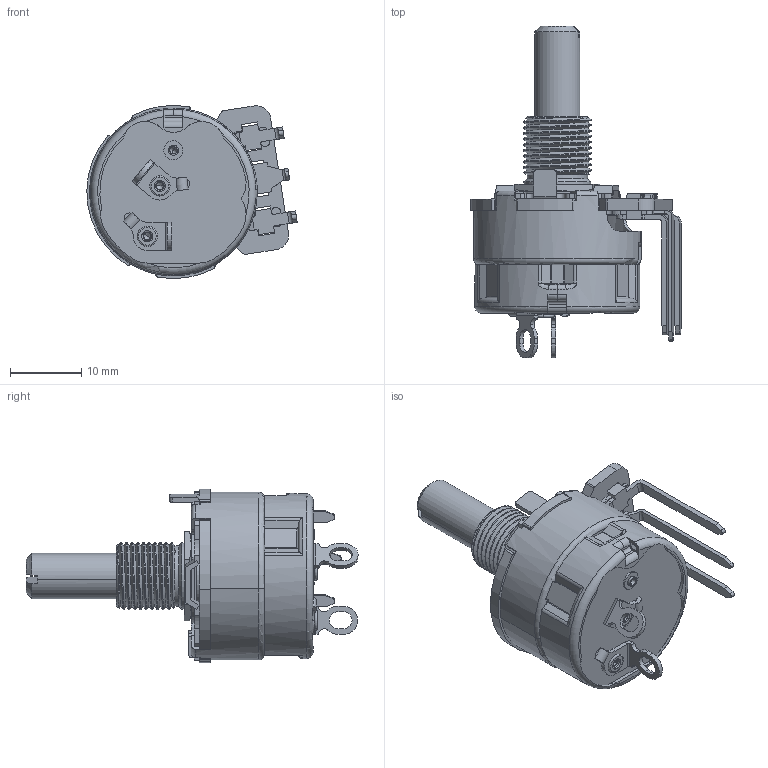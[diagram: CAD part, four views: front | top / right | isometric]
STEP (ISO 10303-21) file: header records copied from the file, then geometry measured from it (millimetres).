
FILE_DESCRIPTION (( 'STEP AP214' ), '1' );
FILE_NAME ('450V328S103A1C1.STEP', '2019-05-27T01:27:20', ( '' ), ( '' ), 'SwSTEP 2.0', 'SolidWorks 2019', '' );
FILE_SCHEMA (( 'AUTOMOTIVE_DESIGN' ));
Length unit declared in the file: millimetre
Products named in the file (18): 450S-ES-11194-28; 450D-5 for V450AEDF-1; Counter RivotGC_C_1G_RollOver Operation; 450-01-T08-30-01G(simple); 2-450B-6; 450F for V450AEDF-1; 450V328S103A1C1; SwitchBaseAssembling_Dummy GC-42T; V450VAEDF-1; 450-40-019-02-53_2-45Q-T; Pivot_G_B_5C_RollOver Operation; 450 element; Simple TGC-39; G-D-1_G_D_1; 45C-2T-Left lug; G-D-1_G_E_1; Switch BaseG_A_19; Cover_GK_4_Embossed Operatopm
Assembly tree (19 placements, depth 4):
  450V328S103A1C1
    Simple TGC-39
      Cover_GK_4_Embossed Operatopm
      SwitchBaseAssembling_Dummy GC-42T
        Switch BaseG_A_19
        G-D-1_G_D_1
        G-D-1_G_E_1
        Counter RivotGC_C_1G_RollOver Operation  x2
        Pivot_G_B_5C_RollOver Operation
    450-40-019-02-53_2-45Q-T
    V450VAEDF-1
      450-01-T08-30-01G(simple)
      450 element
      450F for V450AEDF-1  x2
      450D-5 for V450AEDF-1
    45C-2T-Left lug
    450S-ES-11194-28
    2-450B-6
Bounding box: 29.55 x 46.63 x 24.33 mm (x, y, z)
Volume: 3641.9 mm3; surface area: 9146 mm2
Topology: 16 solids, 16 shells, 1070 faces, 2932 edges, 1882 vertices
Faces by surface type: plane 526, cylinder 395, torus 80, cone 47, bspline 12, sphere 10
Entity records: 34478 total; most frequent: CARTESIAN_POINT 8183, DIRECTION 5436, ORIENTED_EDGE 5432, EDGE_CURVE 2716, AXIS2_PLACEMENT_3D 1952, VERTEX_POINT 1758, VECTOR 1532, LINE 1532
